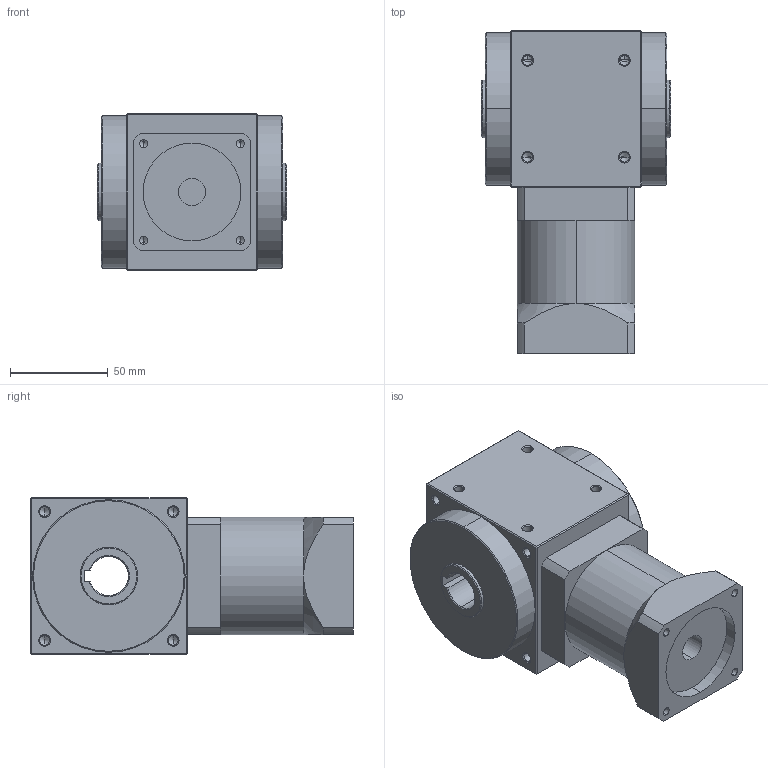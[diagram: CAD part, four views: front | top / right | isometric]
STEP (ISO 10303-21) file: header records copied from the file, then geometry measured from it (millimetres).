
FILE_DESCRIPTION (( 'STEP AP214' ), '1' );
FILE_NAME ('RXW080AS-L1-CR-19-70-90-M6.STEP', '2020-11-23T02:10:33', ( '微软用户' ), ( '微软中国' ), 'SwSTEP 2.0', 'SolidWorks 2014', '' );
FILE_SCHEMA (( 'AUTOMOTIVE_DESIGN' ));
Length unit declared in the file: millimetre
Products named in the file (2): RXW080AS-L1-CR-19-70-90-M6
Bounding box: 97 x 165 x 80 mm (x, y, z)
Volume: 768760.8 mm3; surface area: 79857.3 mm2
Topology: 2 solids, 2 shells, 241 faces, 544 edges, 298 vertices
Faces by surface type: cone 116, cylinder 75, plane 50
Entity records: 8666 total; most frequent: CARTESIAN_POINT 1263, DIRECTION 1184, ORIENTED_EDGE 1024, EDGE_CURVE 512, AXIS2_PLACEMENT_3D 463, VERTEX_POINT 298, EDGE_LOOP 274, VECTOR 258
